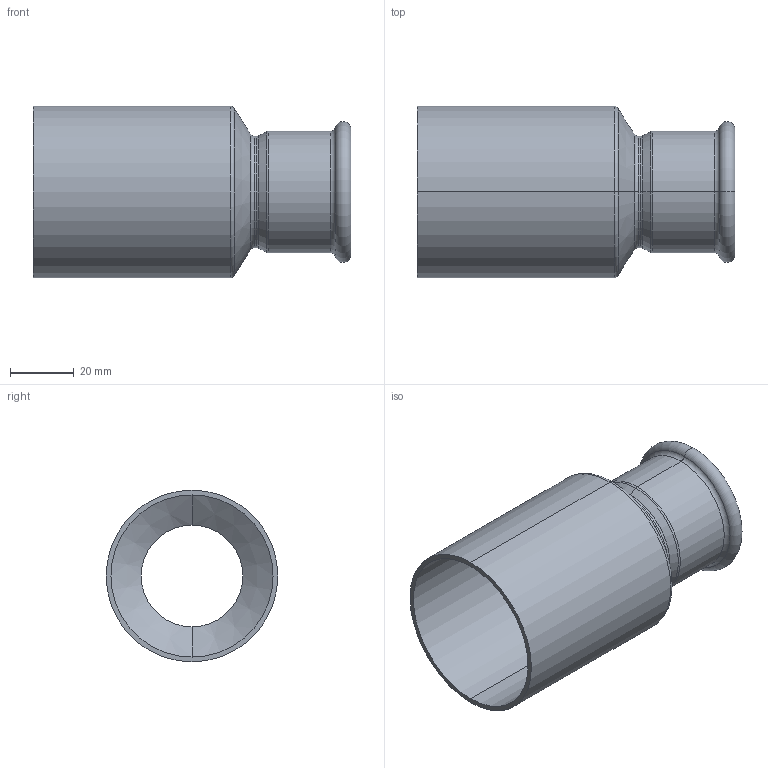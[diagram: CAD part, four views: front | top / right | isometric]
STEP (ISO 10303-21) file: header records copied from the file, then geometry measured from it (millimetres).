
FILE_DESCRIPTION (( 'STEP AP214' ), '1' );
FILE_NAME ('R54350B.STEP', '2025-08-18T00:11:24', ( '' ), ( '' ), 'SwSTEP 2.0', 'SolidWorks 2020', '' );
FILE_SCHEMA (( 'AUTOMOTIVE_DESIGN' ));
Length unit declared in the file: millimetre
Products named in the file (1): R54350B
Bounding box: 100 x 54 x 54 mm (x, y, z)
Volume: 24069.8 mm3; surface area: 32359.5 mm2
Topology: 1 solids, 1 shells, 40 faces, 80 edges, 44 vertices
Faces by surface type: torus 14, cylinder 14, cone 8, plane 4
Entity records: 1076 total; most frequent: DIRECTION 220, CARTESIAN_POINT 165, ORIENTED_EDGE 160, AXIS2_PLACEMENT_3D 99, EDGE_CURVE 80, CIRCLE 58, EDGE_LOOP 44, VERTEX_POINT 44
